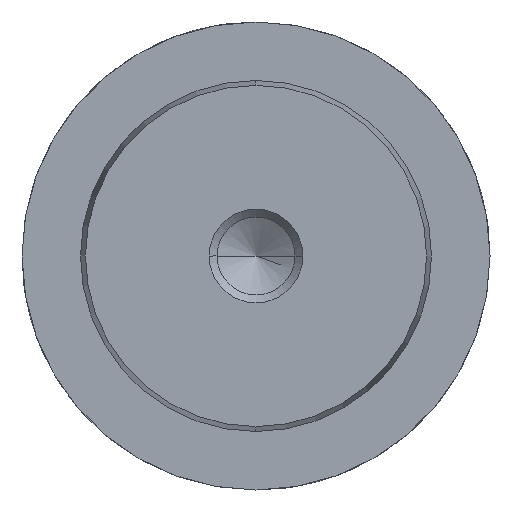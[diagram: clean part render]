
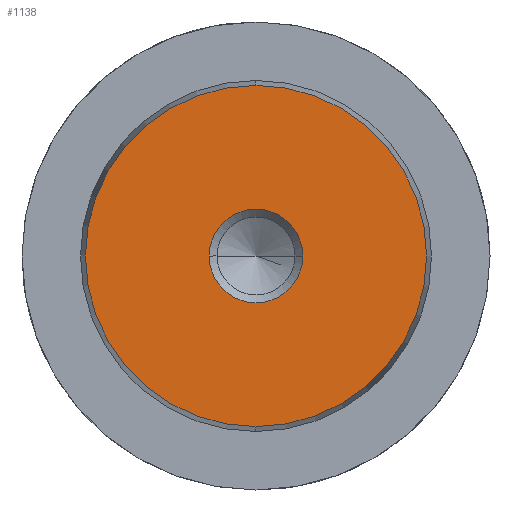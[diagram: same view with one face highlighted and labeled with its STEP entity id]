
A CAD part, left-side view. The second image highlights one B-rep face of the part: STEP entity #1138.
In plain terms, the highlighted planar face has unit normal (-1, 0, 0).
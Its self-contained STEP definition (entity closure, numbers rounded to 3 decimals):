
#1052=CARTESIAN_POINT('Vertex',(0.,0.,-14.578)) ;
#1055=CARTESIAN_POINT('Axis2P3D Location',(0.,0.,0.)) ;
#1059=CARTESIAN_POINT('Vertex',(0.,14.578,0.)) ;
#1062=CARTESIAN_POINT('Axis2P3D Location',(0.,0.,0.)) ;
#1066=CARTESIAN_POINT('Vertex',(0.,0.,14.578)) ;
#1088=CARTESIAN_POINT('Axis2P3D Location',(0.,0.,0.)) ;
#1092=CARTESIAN_POINT('Vertex',(0.,-14.578,0.)) ;
#1095=CARTESIAN_POINT('Axis2P3D Location',(0.,0.,0.)) ;
#1109=CARTESIAN_POINT('Axis2P3D Location',(0.,0.,0.)) ;
#1120=CARTESIAN_POINT('Axis2P3D Location',(0.,0.,0.)) ;
#1124=CARTESIAN_POINT('Vertex',(0.,4.,0.)) ;
#1126=CARTESIAN_POINT('Vertex',(0.,-4.,0.)) ;
#1129=CARTESIAN_POINT('Axis2P3D Location',(0.,0.,0.)) ;
#1056=DIRECTION('Axis2P3D Direction',(1.,-0.,0.)) ;
#1063=DIRECTION('Axis2P3D Direction',(1.,-0.,0.)) ;
#1089=DIRECTION('Axis2P3D Direction',(1.,0.,-0.)) ;
#1096=DIRECTION('Axis2P3D Direction',(1.,0.,-0.)) ;
#1110=DIRECTION('Axis2P3D Direction',(1.,0.,-0.)) ;
#1111=DIRECTION('Axis2P3D XDirection',(-0.,0.,-1.)) ;
#1121=DIRECTION('Axis2P3D Direction',(1.,0.,-0.)) ;
#1130=DIRECTION('Axis2P3D Direction',(1.,0.,-0.)) ;
#1057=AXIS2_PLACEMENT_3D('Circle Axis2P3D',#1055,#1056,$) ;
#1064=AXIS2_PLACEMENT_3D('Circle Axis2P3D',#1062,#1063,$) ;
#1090=AXIS2_PLACEMENT_3D('Circle Axis2P3D',#1088,#1089,$) ;
#1097=AXIS2_PLACEMENT_3D('Circle Axis2P3D',#1095,#1096,$) ;
#1112=AXIS2_PLACEMENT_3D('Plane Axis2P3D',#1109,#1110,#1111) ;
#1122=AXIS2_PLACEMENT_3D('Circle Axis2P3D',#1120,#1121,$) ;
#1131=AXIS2_PLACEMENT_3D('Circle Axis2P3D',#1129,#1130,$) ;
#1115=ORIENTED_EDGE('',*,*,#1061,.F.) ;
#1116=ORIENTED_EDGE('',*,*,#1099,.F.) ;
#1117=ORIENTED_EDGE('',*,*,#1094,.F.) ;
#1118=ORIENTED_EDGE('',*,*,#1068,.F.) ;
#1135=ORIENTED_EDGE('',*,*,#1128,.T.) ;
#1136=ORIENTED_EDGE('',*,*,#1133,.T.) ;
#1137=FACE_BOUND('',#1134,.T.) ;
#1138=ADVANCED_FACE('719-30x280',(#1119,#1137),#1113,.F.) ;
#1058=CIRCLE('generated circle',#1057,14.578) ;
#1065=CIRCLE('generated circle',#1064,14.578) ;
#1091=CIRCLE('generated circle',#1090,14.578) ;
#1098=CIRCLE('generated circle',#1097,14.578) ;
#1123=CIRCLE('generated circle',#1122,4.) ;
#1132=CIRCLE('generated circle',#1131,4.) ;
#1061=EDGE_CURVE('',#1053,#1060,#1058,.T.) ;
#1068=EDGE_CURVE('',#1060,#1067,#1065,.T.) ;
#1094=EDGE_CURVE('',#1067,#1093,#1091,.T.) ;
#1099=EDGE_CURVE('',#1093,#1053,#1098,.T.) ;
#1128=EDGE_CURVE('',#1125,#1127,#1123,.T.) ;
#1133=EDGE_CURVE('',#1127,#1125,#1132,.T.) ;
#1114=EDGE_LOOP('',(#1115,#1116,#1117,#1118)) ;
#1134=EDGE_LOOP('',(#1135,#1136)) ;
#1119=FACE_OUTER_BOUND('',#1114,.T.) ;
#1113=PLANE('Plane',#1112) ;
#1053=VERTEX_POINT('',#1052) ;
#1060=VERTEX_POINT('',#1059) ;
#1067=VERTEX_POINT('',#1066) ;
#1093=VERTEX_POINT('',#1092) ;
#1125=VERTEX_POINT('',#1124) ;
#1127=VERTEX_POINT('',#1126) ;
